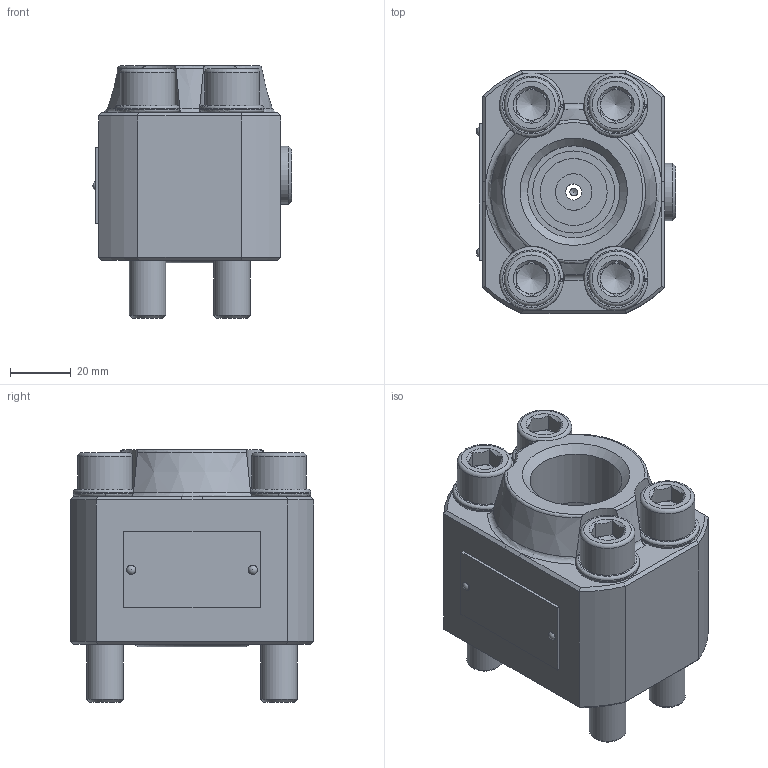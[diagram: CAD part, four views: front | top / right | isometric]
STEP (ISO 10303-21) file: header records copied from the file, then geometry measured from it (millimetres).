
FILE_DESCRIPTION(/* description */ (''),/* implementation_level */ '2;1');
FILE_NAME(/* name */ 'C:\Users\marcop\Desktop\NRV 2 H.stp',/* time_stamp */ '2019-11-11T10:03:20+01:00',/* author */ ('marcop'),/* organization */ (''),/* preprocessor_version */ 'ST-DEVELOPER v17',/* originating_system */ 'Autodesk Inventor 2018',/* authorisation */ '');
FILE_SCHEMA (('AUTOMOTIVE_DESIGN { 1 0 10303 214 3 1 1 }'));
Length unit declared in the file: millimetre
Products named in the file (1): 2020000700_Shrinkwrap_1
Bounding box: 65.5 x 80 x 83 mm (x, y, z)
Volume: 227615.3 mm3; surface area: 69367.5 mm2
Topology: 16 solids, 16 shells, 465 faces, 1164 edges, 748 vertices
Faces by surface type: plane 181, cylinder 105, bspline 82, cone 57, torus 38, sphere 2
Full cylindrical faces by diameter (mm): 1.6 x2, 1.7 x2, 2.5 x4, 10.7 x1, 11.445 x1, 12 x5, 12.75 x4, 13.157 x1, 16.5 x1, 18 x4, 19 x1, 20 x1, 22 x1, 24 x1, 25 x1, 27 x1, 29 x1, 30.291 x1, 31.8 x1, 35.9 x2, 36 x3, 38 x1, 38.3 x1, 43 x2
Entity records: 16191 total; most frequent: CARTESIAN_POINT 5116, ORIENTED_EDGE 2306, DIRECTION 2042, EDGE_CURVE 1153, AXIS2_PLACEMENT_3D 860, VERTEX_POINT 748, EDGE_LOOP 513, STYLED_ITEM 481
